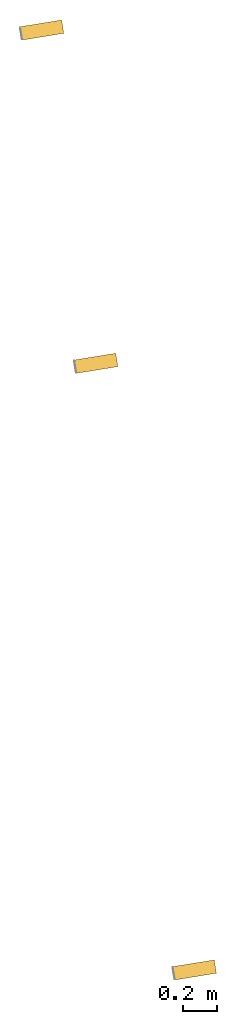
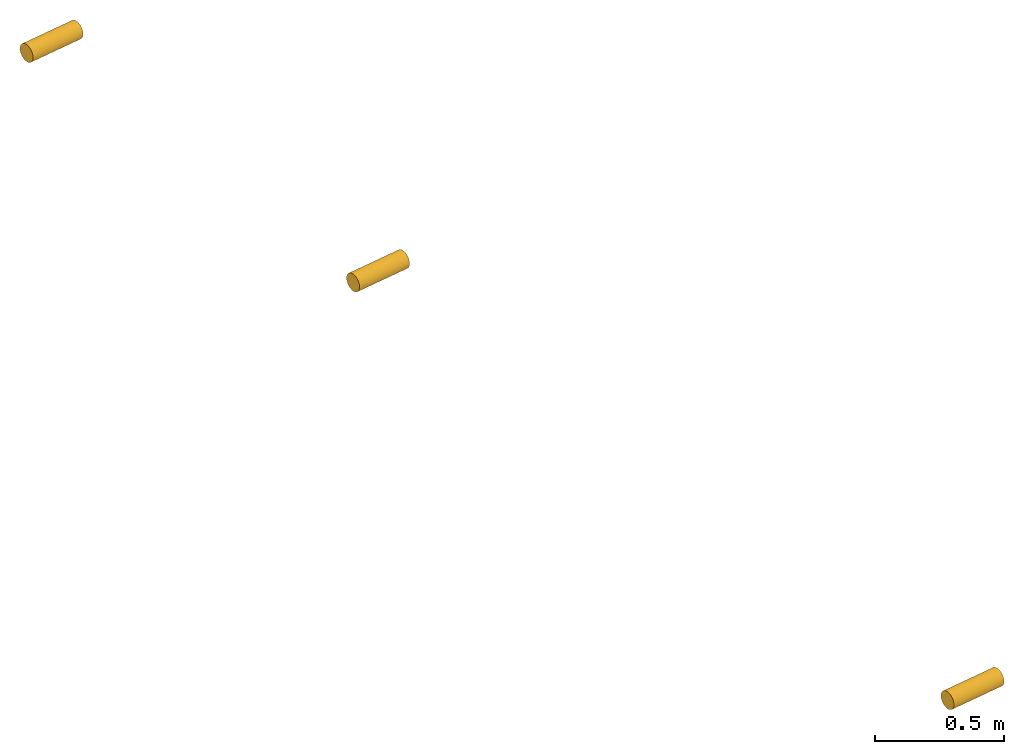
# One storey, part 2 of 2: 3 windows.
"""IFC2X3 building model written with IfcOpenShell, lengths in millimetres."""

from ifc_helpers import new_model, entity, si_unit, converted_unit, derived_unit, direction, frame, frame_2d, origin, origin_with_axes, place, context, subcontext, project, spatial, circle, extrude, source, transform, mapped, material, type_object, element, save


model = new_model("IFC2X3")

# Units and contexts
plan_context = context("Plan", 3, precision=1e-05, world=origin_with_axes())
model_context = context("Model", 3, precision=0.01, world=origin(), true_north=direction((6.12323399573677e-17, 1.0)))
body_context = subcontext(model_context, "Body", "Model", "MODEL_VIEW")
ifc_project = project(units=[converted_unit("PLANEANGLEUNIT", "DEGREE", entity("IfcPositiveLengthMeasure", 0.0174532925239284), si_unit("PLANEANGLEUNIT", "RADIAN"), dimensions=[0, 0, 0, 0, 0, 0, 0]), si_unit("AREAUNIT", "SQUARE_METRE"), si_unit("LENGTHUNIT", "METRE", prefix="MILLI"), si_unit("MASSUNIT", "GRAM", prefix="KILO"), si_unit("POWERUNIT", "WATT"), si_unit("PRESSUREUNIT", "PASCAL", prefix="KILO"), si_unit("FORCEUNIT", "NEWTON", prefix="KILO"), si_unit("ELECTRICVOLTAGEUNIT", "VOLT"), si_unit("ELECTRICCURRENTUNIT", "AMPERE"), si_unit("THERMODYNAMICTEMPERATUREUNIT", "DEGREE_CELSIUS"), si_unit("TIMEUNIT", "SECOND"), si_unit("VOLUMEUNIT", "CUBIC_METRE"), derived_unit("LINEARVELOCITYUNIT", [(si_unit("LENGTHUNIT", "METRE"), 1), (si_unit("TIMEUNIT", "SECOND"), -1)]), derived_unit("VOLUMETRICFLOWRATEUNIT", [(si_unit("VOLUMEUNIT", "CUBIC_METRE"), 1), (si_unit("TIMEUNIT", "SECOND"), -1)]), derived_unit("THERMALTRANSMITTANCEUNIT", [(si_unit("POWERUNIT", "WATT"), 1), (si_unit("THERMODYNAMICTEMPERATUREUNIT", "KELVIN"), -1), (si_unit("AREAUNIT", "SQUARE_METRE"), -1)]), derived_unit("SOUNDPRESSUREUNIT", [(si_unit("PRESSUREUNIT", "PASCAL"), 1)])], contexts=[model_context, plan_context])

# Site, building, storey
site_placement = place(None, frame((-0.00071070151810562, 0.00438415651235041, 0.0), z_axis=(0.0, 0.0, 1.0), x_axis=(-0.160236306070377, 0.987078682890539, 0.0)))
site = spatial("IfcSite", under=ifc_project, at=site_placement, Name="Default", CompositionType="ELEMENT")
building_placement = place(site_placement, origin_with_axes())
building = spatial("IfcBuilding", under=site, at=building_placement, CompositionType="ELEMENT")
storey_placement = place(building_placement, frame((0.0, 0.0, 44699.9999999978), z_axis=(0.0, 0.0, 1.0), x_axis=(1.0, 0.0, 0.0)))
storey = spatial("IfcBuildingStorey", under=building, at=storey_placement, Name="Nivå B", CompositionType="ELEMENT", Elevation=44699.9999999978)

# Windows
ifc_material = material(Name="Utsparing")
window_style_1 = type_object("IfcWindowStyle", Name="Hullboring Sirkulær:V", ConstructionType="NOTDEFINED", OperationType="NOTDEFINED", ParameterTakesPrecedence=False, Sizeable=False, material=ifc_material)
shared_shape = source(origin(), body_context, "Body", "SweptSolid", [
    extrude(circle(Radius=40.0, at=frame_2d((0.0, -6.46217829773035e-14), x_axis=(1.0, 0.0))), frame((0.0, 0.0, 0.0), z_axis=(0.0, 0.0, 1.0), x_axis=(-1.0, 0.0, 0.0)), (0.0, 0.0, 1.0), 249.999999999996),
])
window_1_placement = place(storey_placement, frame((764350.752549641, -504892.480498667, 13430.0000000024), z_axis=(0.0, -1.0, 0.0), x_axis=(1.0, 0.0, 0.0)))
element("IfcWindow", 1, at=window_1_placement, inside=storey, type_object=window_style_1, material=ifc_material, Name="Hullboring Sirkulær:V", ObjectType="Hullboring Sirkulær:V", OverallHeight=200.0, OverallWidth=100.0, context=body_context, shape_type="MappedRepresentation", body=[
    mapped(shared_shape, transform((0.0, 0.0, 0.0), scale=1.0)),
])
window_style_2 = type_object("IfcWindowStyle", Name="Hullboring Sirkulær:V", ConstructionType="NOTDEFINED", OperationType="NOTDEFINED", ParameterTakesPrecedence=False, Sizeable=False, material=ifc_material)
window_2_placement = place(storey_placement, frame((767991.196595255, -504892.480498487, 13430.0000000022), z_axis=(0.0, -1.0, 0.0), x_axis=(1.0, 0.0, 0.0)))
element("IfcWindow", 2, at=window_2_placement, inside=storey, type_object=window_style_2, material=ifc_material, Name="Hullboring Sirkulær:V", ObjectType="Hullboring Sirkulær:V", OverallHeight=200.0, OverallWidth=100.0, context=body_context, shape_type="MappedRepresentation", body=[
    mapped(shared_shape, transform((0.0, 0.0, 0.0), scale=1.0)),
])
window_style_3 = type_object("IfcWindowStyle", Name="Hullboring Sirkulær:V", ConstructionType="NOTDEFINED", OperationType="NOTDEFINED", ParameterTakesPrecedence=False, Sizeable=False, material=ifc_material)
window_3_placement = place(storey_placement, frame((769991.196595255, -504892.480498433, 13430.0000000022), z_axis=(0.0, -1.0, 0.0), x_axis=(1.0, 0.0, 0.0)))
element("IfcWindow", 3, at=window_3_placement, inside=storey, type_object=window_style_3, material=ifc_material, Name="Hullboring Sirkulær:V", ObjectType="Hullboring Sirkulær:V", OverallHeight=200.0, OverallWidth=100.0, context=body_context, shape_type="MappedRepresentation", body=[
    mapped(shared_shape, transform((0.0, 0.0, 0.0), scale=1.0)),
])

save(model, "model.ifc")
